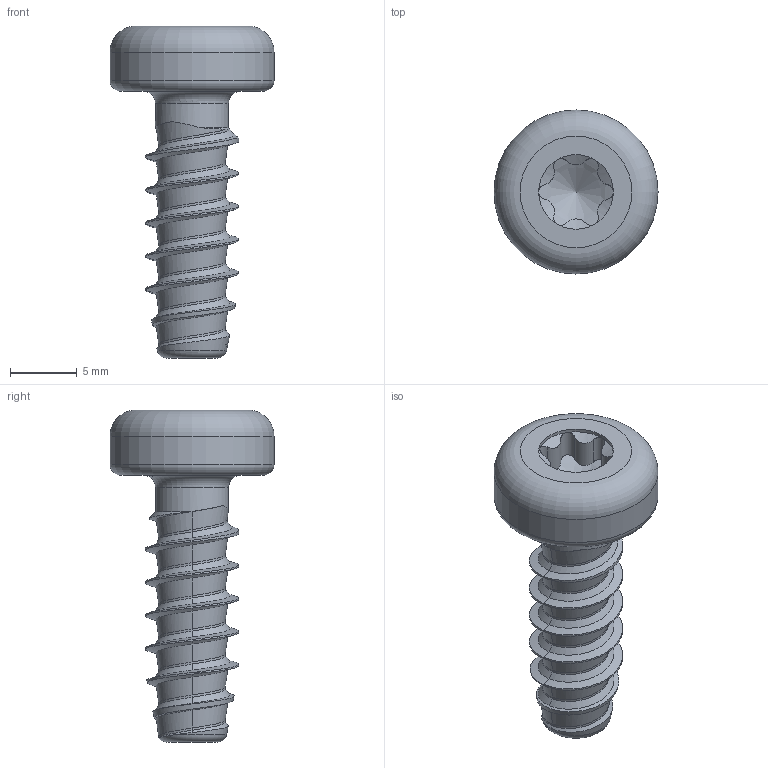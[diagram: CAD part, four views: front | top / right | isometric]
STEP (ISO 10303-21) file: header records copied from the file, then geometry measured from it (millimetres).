
FILE_DESCRIPTION(/* description */ (''),/* implementation_level */ '2;1');
FILE_NAME(/* name */ 'KN6039-STSplus-70x20-T30.step',/* time_stamp */ '2017-10-11T16:10:49+02:00',/* author */ (''),/* organization */ (''),/* preprocessor_version */ 'ST-DEVELOPER v16',/* originating_system */ 'SIEMENS PLM Software NX 10.0',/* authorisation */ '');
FILE_SCHEMA (('AUTOMOTIVE_DESIGN { 1 0 10303 214 3 1 1 1 }'));
Length unit declared in the file: millimetre
Products named in the file (1): KN6039-STSplus-70x20-T30
Bounding box: 12.3 x 12.3 x 24.9 mm (x, y, z)
Volume: 962.2 mm3; surface area: 888.3 mm2
Topology: 1 solids, 1 shells, 71 faces, 167 edges, 99 vertices
Faces by surface type: bspline 39, cylinder 16, cone 9, torus 4, plane 3
Full cylindrical faces by diameter (mm): 5.48 x1, 5.6 x1, 12.3 x1
Entity records: 4680 total; most frequent: CARTESIAN_POINT 3387, ORIENTED_EDGE 310, EDGE_CURVE 155, DIRECTION 148, VERTEX_POINT 96, B_SPLINE_CURVE_WITH_KNOTS 91, EDGE_LOOP 80, ADVANCED_FACE 71
